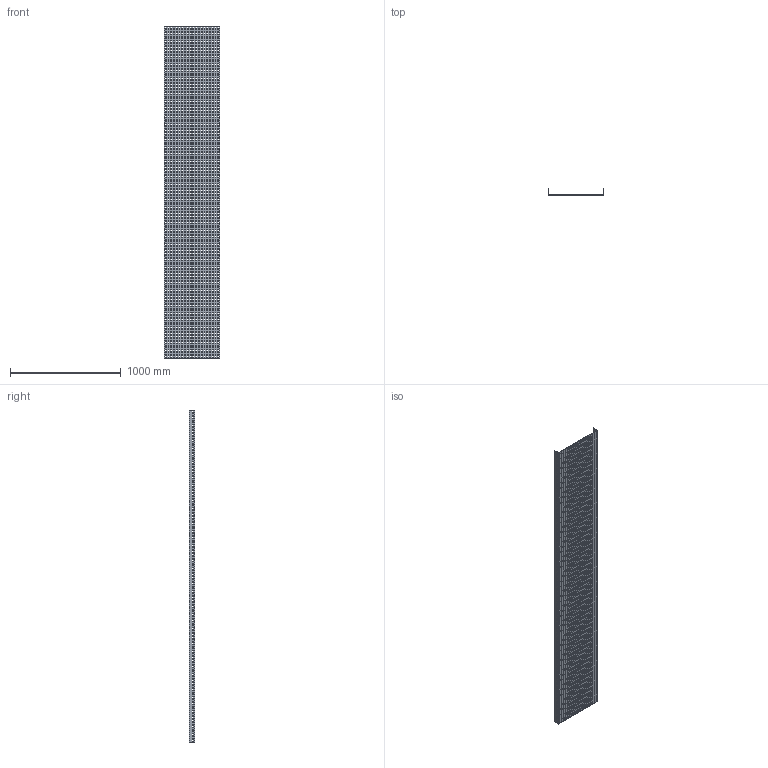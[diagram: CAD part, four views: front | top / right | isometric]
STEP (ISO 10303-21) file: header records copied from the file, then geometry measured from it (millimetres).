
FILE_DESCRIPTION (( 'STEP AP214' ), '1' );
FILE_NAME ('01B3B500.step', '2025-02-21T10:11:49', ( '' ), ( '' ), 'SwSTEP 2.0', 'SolidWorks 2023', '' );
FILE_SCHEMA (( 'AUTOMOTIVE_DESIGN' ));
Products named in the file (1): 01B3B500
Bounding box: 504 x 52 x 3000 mm (x, y, z)
Volume: 5340300 mm3; surface area: 3431623 mm2
Topology: 1 solids, 1 shells, 6346 faces, 19032 edges, 12688 vertices
Faces by surface type: plane 6346
Entity records: 215735 total; most frequent: CARTESIAN_POINT 38067, ORIENTED_EDGE 38064, DIRECTION 31726, LINE 19032, EDGE_CURVE 19032, VECTOR 19032, VERTEX_POINT 12688, EDGE_LOOP 9514
